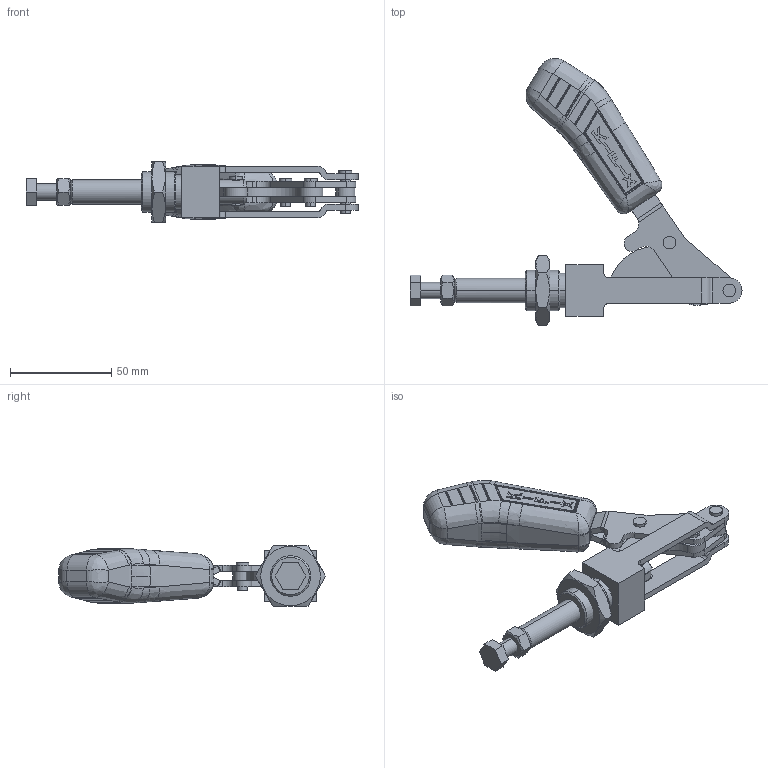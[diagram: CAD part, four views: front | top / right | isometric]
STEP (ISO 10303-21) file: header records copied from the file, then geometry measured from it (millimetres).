
FILE_DESCRIPTION (( 'STEP AP203' ), '1' );
FILE_NAME ('KF-015.STEP', '2014-08-26T17:38:43', ( 'Ricardo' ), ( '' ), 'SwSTEP 2.0', 'SolidWorks 2013', '' );
FILE_SCHEMA (( 'CONFIG_CONTROL_DESIGN' ));
Length unit declared in the file: millimetre
Products named in the file (14): 01.10018_Direita; 11.50002; 01.10018_Esquerda; 12.50020; 08.10009; PP-M8; 03.20004; KF-015; 06.50033; 06.50006; 07.60001; 05.20008; 02.30002; 11.20004
Assembly tree (16 placements, depth 3):
  KF-015
    02.30002
    01.10018_Direita
    01.10018_Esquerda
    08.10009
    03.20004
    06.50033
    06.50006  x3
    07.60001
    05.20008  x2
    11.20004
    PP-M8
      11.50002
      12.50020
Bounding box: 164.18 x 132.08 x 30 mm (x, y, z)
Volume: 95162.9 mm3; surface area: 45226.6 mm2
Topology: 15 solids, 15 shells, 594 faces, 1504 edges, 954 vertices
Faces by surface type: plane 232, cylinder 184, bspline 130, cone 45, torus 3
Entity records: 22450 total; most frequent: CARTESIAN_POINT 8622, ORIENTED_EDGE 2860, DIRECTION 2097, EDGE_CURVE 1430, VERTEX_POINT 916, AXIS2_PLACEMENT_3D 751, EDGE_LOOP 622, LINE 595
